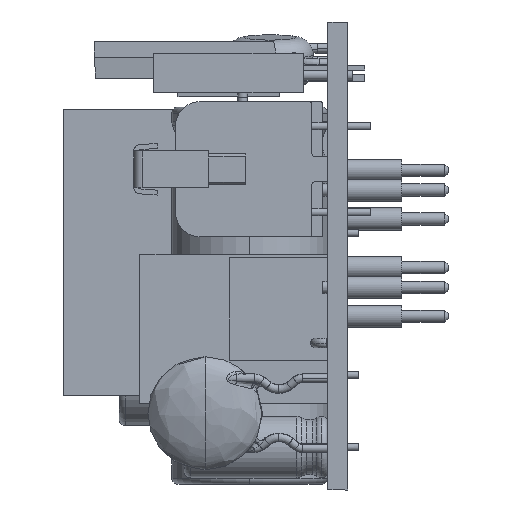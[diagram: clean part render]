
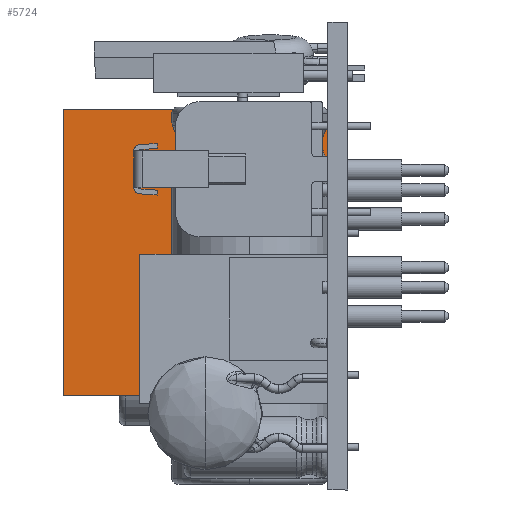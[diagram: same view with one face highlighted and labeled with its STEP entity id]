
A CAD part, left-side view. The second image highlights one B-rep face of the part: STEP entity #5724.
In plain terms, the highlighted planar face has unit normal (-1, 0, 0).
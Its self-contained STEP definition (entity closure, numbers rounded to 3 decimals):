
#195 = ORIENTED_EDGE ( 'NONE', *, *, #9454, .T. ) ;
#230 = DIRECTION ( 'NONE',  ( 0., -1., 0. ) ) ;
#1757 = VERTEX_POINT ( 'NONE', #1759 ) ;
#1759 = CARTESIAN_POINT ( 'NONE',  ( 37.955, 30.424, 21.5 ) ) ;
#2773 = DIRECTION ( 'NONE',  ( 0., 0., -1. ) ) ;
#2938 = EDGE_CURVE ( 'NONE', #1757, #15864, #4673, .T. ) ;
#4131 = CARTESIAN_POINT ( 'NONE',  ( 37.955, 7.12, 21.5 ) ) ;
#4673 = LINE ( 'NONE', #14641, #7734 ) ;
#4707 = CARTESIAN_POINT ( 'NONE',  ( 37.955, 30.424, 0. ) ) ;
#5093 = VECTOR ( 'NONE', #6278, 1000. ) ;
#5724 = ADVANCED_FACE ( 'NONE', ( #13898 ), #16658, .F. ) ;
#6278 = DIRECTION ( 'NONE',  ( 0., 0., -1. ) ) ;
#6714 = CARTESIAN_POINT ( 'NONE',  ( 37.955, 7.12, 21.5 ) ) ;
#7513 = AXIS2_PLACEMENT_3D ( 'NONE', #4131, #15281, #2773 ) ;
#7734 = VECTOR ( 'NONE', #11719, 1000. ) ;
#7933 = CARTESIAN_POINT ( 'NONE',  ( 37.955, 7.12, 21.5 ) ) ;
#8436 = CARTESIAN_POINT ( 'NONE',  ( 37.955, 7.12, 0. ) ) ;
#8920 = EDGE_CURVE ( 'NONE', #1757, #14408, #11282, .T. ) ;
#9454 = EDGE_CURVE ( 'NONE', #15864, #12256, #17014, .T. ) ;
#9584 = ORIENTED_EDGE ( 'NONE', *, *, #8920, .F. ) ;
#10883 = VECTOR ( 'NONE', #230, 1000. ) ;
#11282 = LINE ( 'NONE', #16772, #17694 ) ;
#11719 = DIRECTION ( 'NONE',  ( 0., 0., -1. ) ) ;
#12256 = VERTEX_POINT ( 'NONE', #14073 ) ;
#13403 = ORIENTED_EDGE ( 'NONE', *, *, #2938, .T. ) ;
#13898 = FACE_OUTER_BOUND ( 'NONE', #16430, .T. ) ;
#14073 = CARTESIAN_POINT ( 'NONE',  ( 37.955, 7.12, 0. ) ) ;
#14319 = EDGE_CURVE ( 'NONE', #14408, #12256, #17702, .T. ) ;
#14408 = VERTEX_POINT ( 'NONE', #6714 ) ;
#14641 = CARTESIAN_POINT ( 'NONE',  ( 37.955, 30.424, 21.5 ) ) ;
#14969 = ORIENTED_EDGE ( 'NONE', *, *, #14319, .F. ) ;
#15281 = DIRECTION ( 'NONE',  ( 1., 0., 0. ) ) ;
#15762 = DIRECTION ( 'NONE',  ( 0., -1., 0. ) ) ;
#15864 = VERTEX_POINT ( 'NONE', #4707 ) ;
#16430 = EDGE_LOOP ( 'NONE', ( #195, #14969, #9584, #13403 ) ) ;
#16658 = PLANE ( 'NONE',  #7513 ) ;
#16772 = CARTESIAN_POINT ( 'NONE',  ( 37.955, 7.12, 21.5 ) ) ;
#17014 = LINE ( 'NONE', #8436, #10883 ) ;
#17694 = VECTOR ( 'NONE', #15762, 1000. ) ;
#17702 = LINE ( 'NONE', #7933, #5093 ) ;
